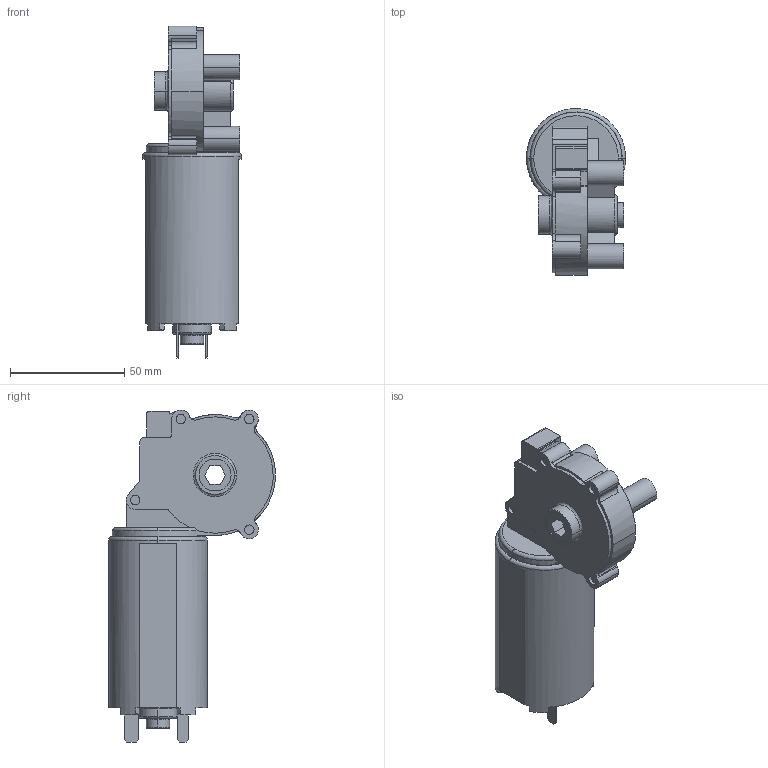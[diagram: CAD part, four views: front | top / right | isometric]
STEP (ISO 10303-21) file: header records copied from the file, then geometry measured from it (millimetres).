
FILE_DESCRIPTION (( 'STEP AP214' ), '1' );
FILE_NAME ('404774_GMPG.STEP', '2016-10-24T06:42:57', ( 'EDV' ), ( 'Hewlett-Packard Company' ), 'SwSTEP 2.0', 'SolidWorks 2016', '' );
FILE_SCHEMA (( 'AUTOMOTIVE_DESIGN' ));
Length unit declared in the file: millimetre
Products named in the file (1): 404774_GMPG
Bounding box: 43.4 x 73.19 x 145.5 mm (x, y, z)
Volume: 166945.9 mm3; surface area: 27703.6 mm2
Topology: 1 solids, 1 shells, 215 faces, 572 edges, 377 vertices
Faces by surface type: plane 106, cylinder 90, bspline 19
Entity records: 9770 total; most frequent: CARTESIAN_POINT 4590, ORIENTED_EDGE 1140, DIRECTION 983, EDGE_CURVE 570, VERTEX_POINT 376, AXIS2_PLACEMENT_3D 347, LINE 289, VECTOR 289
